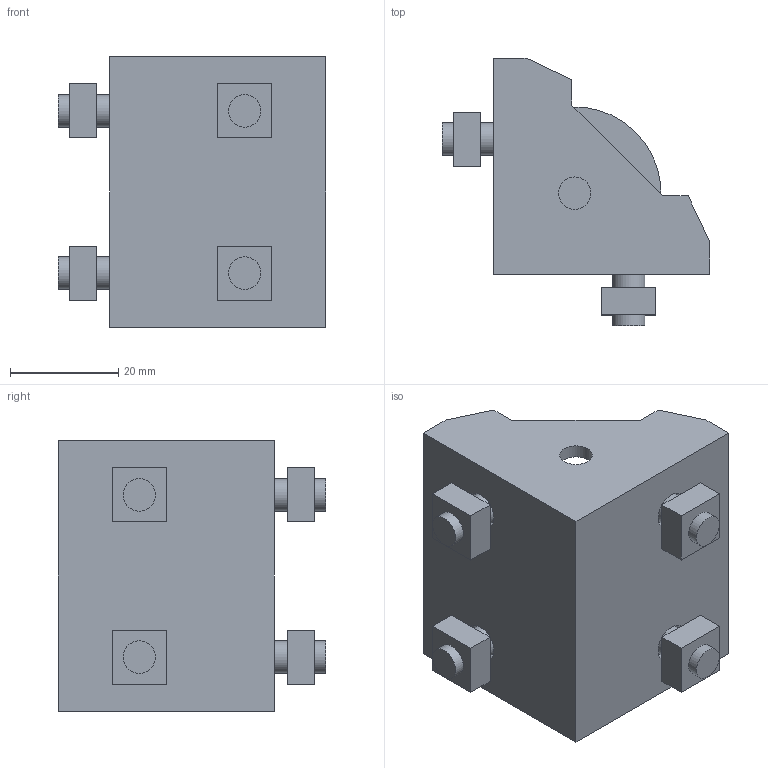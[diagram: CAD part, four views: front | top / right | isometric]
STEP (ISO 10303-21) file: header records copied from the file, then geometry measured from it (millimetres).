
FILE_DESCRIPTION((''),'2;1');
FILE_NAME('C:\Documents and Settings\AMS8\デスクトップ\2013from西村作業用\既存3D\M6ブラケット差分\ABLD-60-6-T\ABLD-60-6-T.stp','2013-08-12T09:38:35',('AMS8'),(''),'Autodesk Inventor 2008','Autodesk Inventor 2008','');
FILE_SCHEMA(('AUTOMOTIVE_DESIGN { 1 0 10303 214 1 1 1 1 }'));
Length unit declared in the file: millimetre
Products named in the file (10): ABLD-60-6-T; ABLD-60-6-T1; ABLD-60-6-T2; ABLD-60-6-T3; ABLD-60-6-T4; ABLD-60-6-T5; ABLD-60-6-T6; ABLD-60-6-T7; ABLD-60-6-T8; ABLD-60-6-T9
Assembly tree (9 placements, depth 2):
  ABLD-60-6-T
    ABLD-60-6-T1
    ABLD-60-6-T2
    ABLD-60-6-T3
    ABLD-60-6-T4
    ABLD-60-6-T5
    ABLD-60-6-T6
    ABLD-60-6-T7
    ABLD-60-6-T8
    ABLD-60-6-T9
Bounding box: 49.5 x 49.5 x 50 mm (x, y, z)
Volume: 38446.5 mm3; surface area: 17818.5 mm2
Topology: 9 solids, 9 shells, 114 faces, 248 edges, 164 vertices
Faces by surface type: plane 92, cylinder 22
Full cylindrical faces by diameter (mm): 6 x9, 6.4 x4, 7 x4, 13 x4
Entity records: 3307 total; most frequent: DIRECTION 537, CARTESIAN_POINT 524, ORIENTED_EDGE 454, EDGE_CURVE 227, VECTOR 183, LINE 183, AXIS2_PLACEMENT_3D 177, EDGE_LOOP 165
